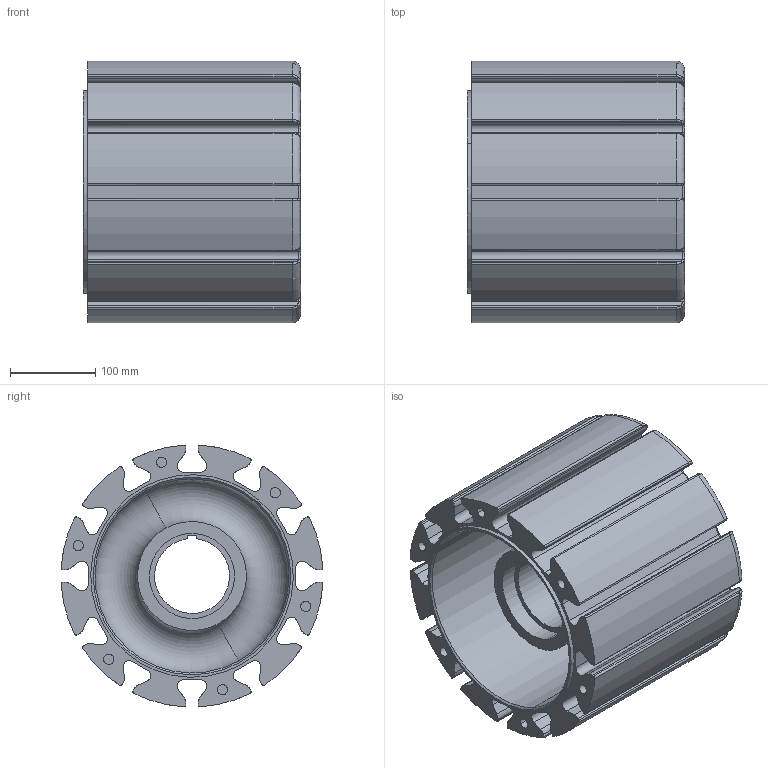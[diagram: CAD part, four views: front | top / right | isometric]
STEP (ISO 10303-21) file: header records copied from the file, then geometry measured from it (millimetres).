
FILE_DESCRIPTION(('CATIA V5 STEP Exchange'),'2;1');
FILE_NAME('.\Snecma_3.stp','2013-09-20T09:04:32+00:00',('none'),('none'),'CATIA Version 5 Release 19 SP 7 (IN-10)','CATIA V5 STEP AP214','none');
FILE_SCHEMA(('AUTOMOTIVE_DESIGN { 1 0 10303 214 3 1 1 1 }'));
Length unit declared in the file: millimetre
Products named in the file (1): PART1
Bounding box: 255 x 307.38 x 307.38 mm (x, y, z)
Volume: 7740930.8 mm3; surface area: 851106.7 mm2
Topology: 1 solids, 1 shells, 371 faces, 888 edges, 540 vertices
Faces by surface type: cylinder 167, plane 86, bspline 72, torus 42, cone 4
Entity records: 34245 total; most frequent: CARTESIAN_POINT 21570, ORIENTED_EDGE 1776, DIRECTION 1177, PROPERTY_DEFINITION 892, EDGE_CURVE 888, REPRESENTATION 731, PROPERTY_DEFINITION_REPRESENTATION 731, POLYLINE 656
